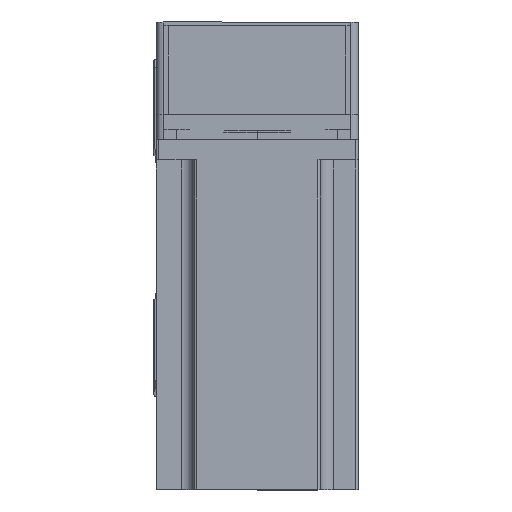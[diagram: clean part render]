
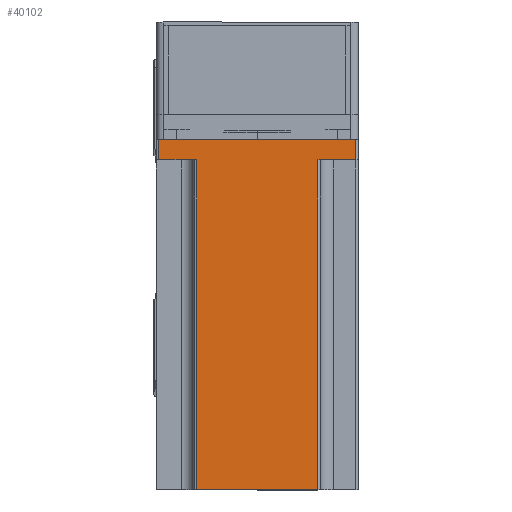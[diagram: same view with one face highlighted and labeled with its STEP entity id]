
A CAD part, top view. The second image highlights one B-rep face of the part: STEP entity #40102.
In plain terms, the highlighted planar face has unit normal (0, 0, 1) as drawn and (0, 1, 0) by its records, which use the part's own axes.
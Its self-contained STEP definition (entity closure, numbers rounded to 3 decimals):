
#1398 = DIRECTION ( 'NONE',  ( -1., 0., 0. ) ) ;
#2250 = CARTESIAN_POINT ( 'NONE',  ( -39., 40., 138.3 ) ) ;
#3011 = DIRECTION ( 'NONE',  ( 0., -1., 0. ) ) ;
#5989 = VERTEX_POINT ( 'NONE', #44298 ) ;
#7869 = VECTOR ( 'NONE', #26327, 1000. ) ;
#8480 = DIRECTION ( 'NONE',  ( -1., 0., 0. ) ) ;
#8531 = LINE ( 'NONE', #2250, #20672 ) ;
#9302 = LINE ( 'NONE', #53750, #7869 ) ;
#9379 = EDGE_CURVE ( 'NONE', #5989, #39438, #39253, .T. ) ;
#9678 = EDGE_CURVE ( 'NONE', #46281, #45716, #8531, .T. ) ;
#10015 = EDGE_CURVE ( 'NONE', #48532, #39438, #52839, .T. ) ;
#10402 = VERTEX_POINT ( 'NONE', #48558 ) ;
#10467 = ORIENTED_EDGE ( 'NONE', *, *, #10015, .F. ) ;
#10521 = CARTESIAN_POINT ( 'NONE',  ( 40., 40., 138.3 ) ) ;
#11152 = DIRECTION ( 'NONE',  ( 0., 0., -1. ) ) ;
#11328 = DIRECTION ( 'NONE',  ( 0., 0., 1. ) ) ;
#11914 = VECTOR ( 'NONE', #26315, 1000. ) ;
#15334 = CARTESIAN_POINT ( 'NONE',  ( 39., 40., 8. ) ) ;
#17666 = CARTESIAN_POINT ( 'NONE',  ( 25., 40., 8. ) ) ;
#17855 = ORIENTED_EDGE ( 'NONE', *, *, #25314, .F. ) ;
#18264 = CARTESIAN_POINT ( 'NONE',  ( -39., 40., 8. ) ) ;
#18813 = CARTESIAN_POINT ( 'NONE',  ( 24., 40., 8. ) ) ;
#20240 = CARTESIAN_POINT ( 'NONE',  ( -24., 40., 8. ) ) ;
#20356 = LINE ( 'NONE', #24956, #53999 ) ;
#20672 = VECTOR ( 'NONE', #11328, 1000. ) ;
#22781 = DIRECTION ( 'NONE',  ( 0., 0., -1. ) ) ;
#24956 = CARTESIAN_POINT ( 'NONE',  ( 39., 40., 138.3 ) ) ;
#25013 = EDGE_CURVE ( 'NONE', #48532, #10402, #20356, .T. ) ;
#25314 = EDGE_CURVE ( 'NONE', #5989, #35553, #35271, .T. ) ;
#26315 = DIRECTION ( 'NONE',  ( 1., 0., 0. ) ) ;
#26327 = DIRECTION ( 'NONE',  ( -1., 0., 0. ) ) ;
#27584 = EDGE_CURVE ( 'NONE', #10402, #46281, #9302, .T. ) ;
#28454 = DIRECTION ( 'NONE',  ( 0., 0., 1. ) ) ;
#29817 = ORIENTED_EDGE ( 'NONE', *, *, #9379, .T. ) ;
#29931 = VECTOR ( 'NONE', #8480, 1000. ) ;
#30354 = CARTESIAN_POINT ( 'NONE',  ( 40., 40., 138.3 ) ) ;
#31138 = ORIENTED_EDGE ( 'NONE', *, *, #9678, .T. ) ;
#33177 = CARTESIAN_POINT ( 'NONE',  ( -39., 40., 0. ) ) ;
#34885 = DIRECTION ( 'NONE',  ( 1., 0., 0. ) ) ;
#35271 = LINE ( 'NONE', #10521, #46024 ) ;
#35553 = VERTEX_POINT ( 'NONE', #36184 ) ;
#36171 = EDGE_LOOP ( 'NONE', ( #55431, #40823, #17855, #29817, #10467, #36229, #48498, #31138 ) ) ;
#36184 = CARTESIAN_POINT ( 'NONE',  ( -24., 40., 138.3 ) ) ;
#36229 = ORIENTED_EDGE ( 'NONE', *, *, #25013, .T. ) ;
#37276 = EDGE_CURVE ( 'NONE', #45716, #45905, #59226, .T. ) ;
#39253 = LINE ( 'NONE', #54829, #50061 ) ;
#39265 = PLANE ( 'NONE',  #50899 ) ;
#39438 = VERTEX_POINT ( 'NONE', #18813 ) ;
#40102 = ADVANCED_FACE ( 'NONE', ( #48615 ), #39265, .F. ) ;
#40823 = ORIENTED_EDGE ( 'NONE', *, *, #51841, .T. ) ;
#42219 = CARTESIAN_POINT ( 'NONE',  ( -24., 40., 138.3 ) ) ;
#44298 = CARTESIAN_POINT ( 'NONE',  ( 24., 40., 138.3 ) ) ;
#45716 = VERTEX_POINT ( 'NONE', #18264 ) ;
#45905 = VERTEX_POINT ( 'NONE', #20240 ) ;
#46024 = VECTOR ( 'NONE', #1398, 1000. ) ;
#46281 = VERTEX_POINT ( 'NONE', #33177 ) ;
#48498 = ORIENTED_EDGE ( 'NONE', *, *, #27584, .T. ) ;
#48532 = VERTEX_POINT ( 'NONE', #15334 ) ;
#48558 = CARTESIAN_POINT ( 'NONE',  ( 39., 40., 0. ) ) ;
#48615 = FACE_OUTER_BOUND ( 'NONE', #36171, .T. ) ;
#50061 = VECTOR ( 'NONE', #22781, 1000. ) ;
#50484 = VECTOR ( 'NONE', #28454, 1000. ) ;
#50899 = AXIS2_PLACEMENT_3D ( 'NONE', #30354, #3011, #34885 ) ;
#51841 = EDGE_CURVE ( 'NONE', #45905, #35553, #51925, .T. ) ;
#51925 = LINE ( 'NONE', #42219, #50484 ) ;
#52839 = LINE ( 'NONE', #17666, #29931 ) ;
#53750 = CARTESIAN_POINT ( 'NONE',  ( 40., 40., 0. ) ) ;
#53999 = VECTOR ( 'NONE', #11152, 1000. ) ;
#54829 = CARTESIAN_POINT ( 'NONE',  ( 24., 40., 138.3 ) ) ;
#55431 = ORIENTED_EDGE ( 'NONE', *, *, #37276, .T. ) ;
#58345 = CARTESIAN_POINT ( 'NONE',  ( -25., 40., 8. ) ) ;
#59226 = LINE ( 'NONE', #58345, #11914 ) ;
